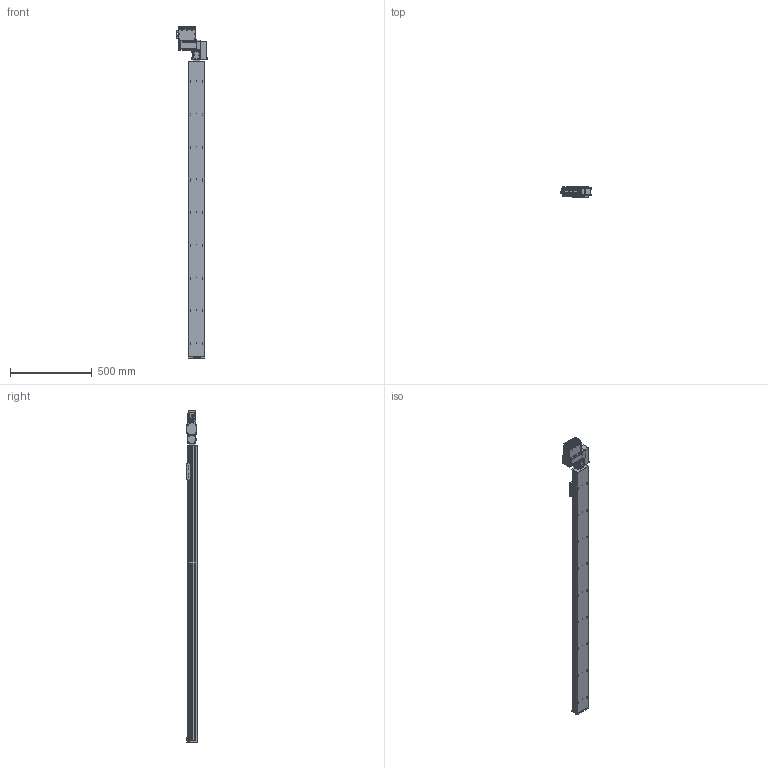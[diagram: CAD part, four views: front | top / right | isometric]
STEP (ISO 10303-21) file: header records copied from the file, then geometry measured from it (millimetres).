
FILE_DESCRIPTION (( 'STEP AP203' ), '1' );
FILE_NAME ('S10 TBN RH S1800.STEP', '2012-06-18T10:35:43', ( 'Conseil Régional Haute-Normandie' ), ( 'Conseil Régional Haute-Normandie' ), 'SwSTEP 2.0', 'SolidWorks 2010', '' );
FILE_SCHEMA (( 'CONFIG_CONTROL_DESIGN' ));
Length unit declared in the file: millimetre
Products named in the file (30): embout; renvoi LH_Default; Assem1_7; Moteur 60BLDC90A_3; Couvercle_3; T_X2_00F4_X0_le fond_3; Colonnette ronde_3; T_X2_00F4_X0_le Arri_X2_00E8_X0_re_5; Vis M5 L16-2_Default_1; vis M5 L5_Default; Vis TF 3 torkx; S10 TBN RH S1800; palette tbn; cache t皻e axe_Default; cache t皻e_Default; Copie de plaque de bout s10_Default^S10 TBN RH S1800; Plaque racord_Default; T_X2_00F4_X0_le contre le moteur_5; BU41 Carte Alimentation P05_3; Colonnette_3; BU45 Carte d''axe A11_5; Connecteur rond D10 3cts_5; Connecteur rond D12 4cts_5; Sub D 9cts 90_X2_00B_X0__3; Radiateur profil_X2_00E9_X0_ 100x25_3; T_X2_00F4_X0_le lat_X2_00E9_X0_rale_5; Vis TF 3 torkx_1_1; Cvis M5 L30_Default; vis M5 L12_Default; axe 1800
Assembly tree (69 placements, depth 3):
  S10 TBN RH S1800
    cache t皻e_Default  x2
    renvoi LH_Default
    vis M5 L12_Default  x4
    vis M5 L5_Default  x4
    Vis M5 L16-2_Default_1  x4
    Vis TF 3 torkx  x7
    cache t皻e axe_Default
    Cvis M5 L30_Default  x2
    palette tbn
    axe 1800
    Plaque racord_Default
    Assem1_7
      BU41 Carte Alimentation P05_3
      T_X2_00F4_X0_le lat_X2_00E9_X0_rale_5  x2
      Vis TF 3 torkx_1_1  x21
      Radiateur profil_X2_00E9_X0_ 100x25_3
      Couvercle_3
      Colonnette_3  x2
      T_X2_00F4_X0_le fond_3
      Colonnette ronde_3
      T_X2_00F4_X0_le contre le moteur_5
      Connecteur rond D10 3cts_5  x2
      T_X2_00F4_X0_le Arri_X2_00E8_X0_re_5
      BU45 Carte d''axe A11_5
      Connecteur rond D12 4cts_5
      Moteur 60BLDC90A_3
      Sub D 9cts 90_X2_00B_X0__3
    embout
    Copie de plaque de bout s10_Default^S10 TBN RH S1800
Bounding box: 189.8 x 66.75 x 2028.5 mm (x, y, z)
Volume: 10191737.4 mm3; surface area: 1169862.1 mm2
Topology: 68 solids, 68 shells, 2543 faces, 6307 edges, 4071 vertices
Faces by surface type: plane 1219, cylinder 1085, cone 196, bspline 40, torus 3
Entity records: 50027 total; most frequent: CARTESIAN_POINT 8958, DIRECTION 8082, ORIENTED_EDGE 7318, EDGE_CURVE 3659, AXIS2_PLACEMENT_3D 3006, VERTEX_POINT 2387, LINE 2070, VECTOR 2070
